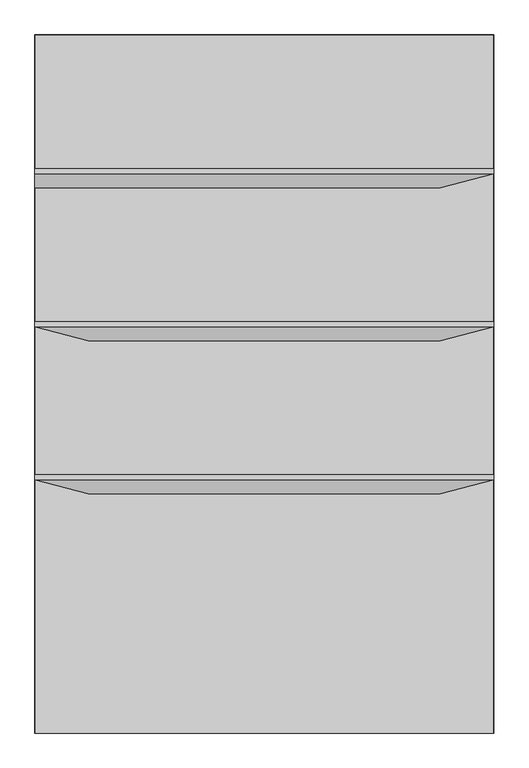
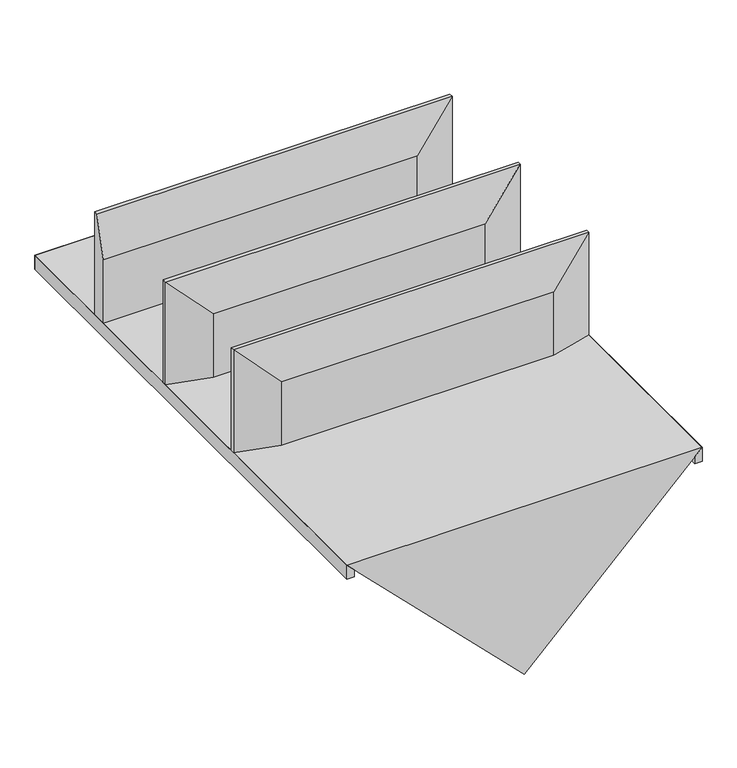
"""IFC4 building model written with IfcOpenShell, lengths in millimetres: proxy geometry, AERO^OFFICE 4_36 WALL HUNG-SHELF."""

from ifc_helpers import new_model, si_unit, origin, place, context, project, spatial, faceted_brep, source, transform, mapped, element, save


def generic_models_5d9d723c(model_context):
    return source(origin(), model_context, "Body", "Brep", [
        faceted_brep([(807.7566482, 304.8, 172.7566482), (914.4, 333.375, 279.4), (0.0, 333.375, 279.4), (0.0, 304.8, 172.7566482), (807.7566482, 304.8, 0.0), (914.4, 333.375, 0.0), (914.4, 342.9, 0.0), (914.4, 342.9, 279.4), (0.0, 304.8, 0.0), (0.0, 342.9, 0.0), (0.0, 342.9, 279.4)], [[[0, 1, 2, 3]], [[4, 5, 1, 0]], [[1, 5, 6, 7]], [[5, 4, 8, 9, 6]], [[4, 0, 3, 8]], [[6, 9, 10, 7]], [[3, 2, 10, 9, 8]], [[2, 1, 7, 10]]]),
        faceted_brep([(0.0, -276.225, 0.0), (106.6433518, -304.8, 0.0), (106.6433518, -304.8, 172.7566482), (0.0, -276.225, 279.4), (0.0, -266.7, 0.0), (914.4, -266.7, 0.0), (914.4, -276.225, 0.0), (807.7566482, -304.8, 0.0), (0.0, -266.7, 279.4), (807.7566482, -304.8, 172.7566482), (914.4, -276.225, 279.4), (914.4, -266.7, 279.4)], [[[0, 1, 2, 3]], [[1, 0, 4, 5, 6, 7]], [[0, 3, 8, 4]], [[3, 2, 9, 10]], [[7, 6, 10, 9]], [[2, 1, 7, 9]], [[3, 10, 11, 8]], [[5, 4, 8, 11]], [[10, 6, 5, 11]]]),
        faceted_brep([(0.0, -781.05, -38.1), (19.05, -781.05, -38.1), (19.05, -781.05, -19.05), (0.0, -781.05, 0.0), (0.0, 609.6, 0.0), (0.0, 609.6, -38.1), (19.05, 590.55, -38.1), (19.05, 590.55, -19.05)], [[[0, 1, 2, 3]], [[4, 5, 0, 3]], [[5, 6, 1, 0]], [[6, 7, 2, 1]], [[7, 4, 3, 2]], [[6, 5, 4, 7]]]),
        faceted_brep([(0.0, 28.575, 0.0), (106.6433518, 0.0, 0.0), (106.6433518, 0.0, 172.7566482), (0.0, 28.575, 279.4), (0.0, 38.1, 0.0), (914.4, 38.1, 0.0), (914.4, 28.575, 0.0), (807.7566482, 0.0, 0.0), (0.0, 38.1, 279.4), (807.7566482, 0.0, 172.7566482), (914.4, 28.575, 279.4), (914.4, 38.1, 279.4)], [[[0, 1, 2, 3]], [[1, 0, 4, 5, 6, 7]], [[0, 3, 8, 4]], [[3, 2, 9, 10]], [[7, 6, 10, 9]], [[2, 1, 7, 9]], [[3, 10, 11, 8]], [[5, 4, 8, 11]], [[10, 6, 5, 11]]]),
        faceted_brep([(895.35, 590.55, -38.1), (914.4, 609.6, -38.1), (914.4, 609.6, 0.0), (895.35, 590.55, -19.05), (19.05, 590.55, -19.05), (19.05, 590.55, -38.1), (0.0, 609.6, 0.0), (0.0, 609.6, -38.1)], [[[0, 1, 2, 3]], [[0, 3, 4, 5]], [[3, 2, 6, 4]], [[4, 6, 7, 5]], [[1, 0, 5, 7]], [[7, 6, 2, 1]]]),
        faceted_brep([(914.4, -781.05, 0.0), (895.35, -781.05, -19.05), (895.35, -781.05, -38.1), (914.4, -781.05, -38.1), (914.4, 609.6, -38.1), (914.4, 609.6, 0.0), (895.35, 590.55, -19.05), (895.35, 590.55, -38.1)], [[[0, 1, 2, 3]], [[4, 5, 0, 3]], [[5, 6, 1, 0]], [[6, 7, 2, 1]], [[7, 4, 3, 2]], [[6, 5, 4, 7]]]),
        faceted_brep([(0.0, 609.6, 0.0), (457.2, 152.4, -457.2), (457.2, -781.05, -457.2), (0.0, -781.05, 0.0), (914.4, -781.05, 0.0), (914.4, 609.6, 0.0)], [[[0, 1, 2, 3]], [[3, 2, 4]], [[1, 5, 4, 2]], [[1, 0, 5]], [[0, 3, 4, 5]]]),
    ])


if __name__ == "__main__":
    model = new_model("IFC4")
    model_context = context("Model", 3, world=origin())
    ifc_project = project(units=[si_unit("LENGTHUNIT", "METRE", prefix="MILLI")], contexts=[model_context])
    site = spatial("IfcSite", under=ifc_project)
    building = spatial("IfcBuilding", under=site)
    placement = place(None, origin())
    generic_models_shape = generic_models_5d9d723c(model_context)
    element("IfcBuildingElementProxy", 1, Name="AERO^OFFICE 4_36 WALL HUNG-SHELF", ObjectType="AERO^OFFICE 4_36 WALL HUNG-SHELF", at=placement, inside=building, context=model_context, shape_type="MappedRepresentation", body=[
        mapped(generic_models_shape, transform((0.0, 0.0, 0.0), x_axis=(1.0, 0.0, 0.0), y_axis=(0.0, 1.0, 0.0), z_axis=(0.0, 0.0, 1.0))),
    ])
    save(model, "model.ifc")
